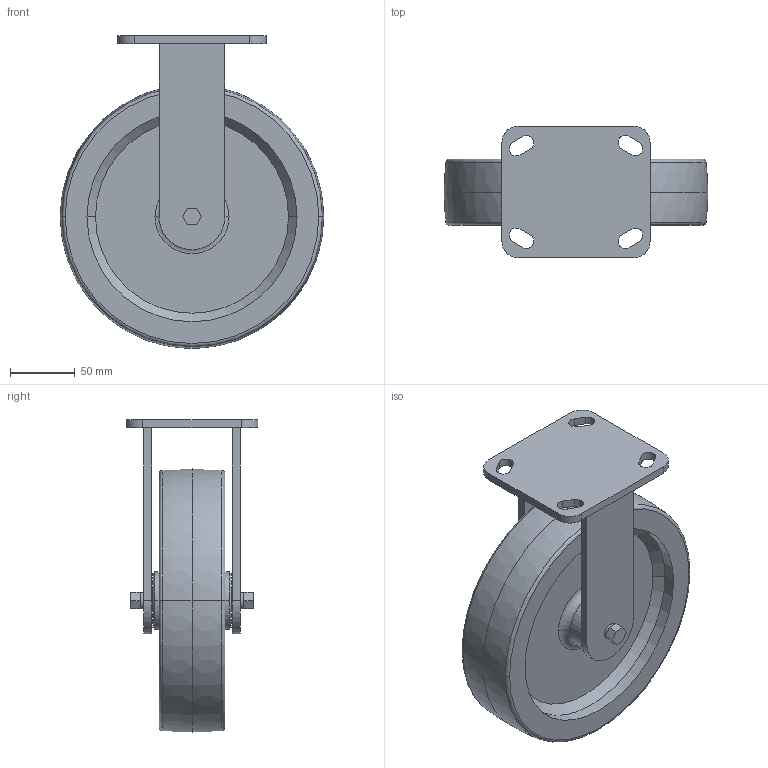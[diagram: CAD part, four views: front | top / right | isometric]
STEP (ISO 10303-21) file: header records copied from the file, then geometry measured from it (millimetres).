
FILE_DESCRIPTION (( 'STEP AP214' ), '1' );
FILE_NAME ('9.5in_1100lbs_Polyurethane Rigid Caster.STEP', '2025-06-10T16:23:49', ( '' ), ( '' ), 'SwSTEP 2.0', 'SolidWorks 2023', '' );
FILE_SCHEMA (( 'AUTOMOTIVE_DESIGN' ));
Length unit declared in the file: inch
Products named in the file (1): 9.5in_1100lbs_Polyurethane Rigid Caster
Bounding box: 203.2 x 101.6 x 241.3 mm (x, y, z)
Volume: 1232149.6 mm3; surface area: 177647.2 mm2
Topology: 3 solids, 3 shells, 98 faces, 234 edges, 150 vertices
Faces by surface type: plane 44, cylinder 34, torus 12, cone 8
Entity records: 2933 total; most frequent: DIRECTION 534, CARTESIAN_POINT 483, ORIENTED_EDGE 468, EDGE_CURVE 234, AXIS2_PLACEMENT_3D 201, VERTEX_POINT 150, VECTOR 132, LINE 132
